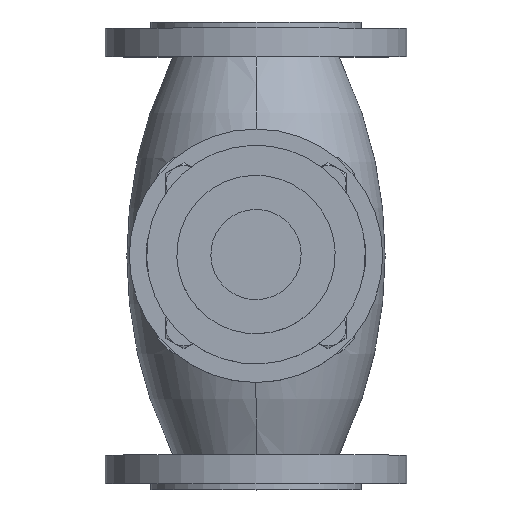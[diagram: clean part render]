
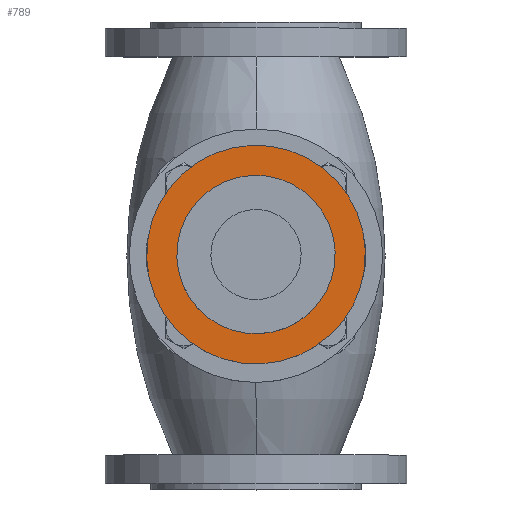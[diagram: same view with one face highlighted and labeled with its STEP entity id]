
A CAD part, top view. The second image highlights one B-rep face of the part: STEP entity #789.
In plain terms, the highlighted planar face has unit normal (0, 0, 1) as drawn and (0, 0, -1) by its records, which use the part's own axes.
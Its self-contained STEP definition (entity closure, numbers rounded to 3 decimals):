
#60 = CARTESIAN_POINT ( 'NONE',  ( -48.507, 3.084, -10.901 ) ) ;
#104 = DIRECTION ( 'NONE',  ( 0., 0., -1. ) ) ;
#501 = CARTESIAN_POINT ( 'NONE',  ( 3.993, 3.084, -10.901 ) ) ;
#583 = ORIENTED_EDGE ( 'NONE', *, *, #11066, .T. ) ;
#690 = VERTEX_POINT ( 'NONE', #9287 ) ;
#789 = ADVANCED_FACE ( 'NONE', ( #11346, #5386 ), #2604, .T. ) ;
#856 = CIRCLE ( 'NONE', #2325, 52.5 ) ;
#944 = CARTESIAN_POINT ( 'NONE',  ( 58.094, 3.084, -10.901 ) ) ;
#1075 = CIRCLE ( 'NONE', #4182, 72.5 ) ;
#1272 = EDGE_LOOP ( 'NONE', ( #1981, #3633 ) ) ;
#1415 = CARTESIAN_POINT ( 'NONE',  ( 3.993, 3.084, -10.901 ) ) ;
#1727 = CARTESIAN_POINT ( 'NONE',  ( 3.993, 3.084, -10.901 ) ) ;
#1851 = AXIS2_PLACEMENT_3D ( 'NONE', #944, #4278, #7957 ) ;
#1981 = ORIENTED_EDGE ( 'NONE', *, *, #9070, .F. ) ;
#2325 = AXIS2_PLACEMENT_3D ( 'NONE', #1415, #8609, #8376 ) ;
#2604 = PLANE ( 'NONE',  #1851 ) ;
#3620 = VERTEX_POINT ( 'NONE', #5360 ) ;
#3633 = ORIENTED_EDGE ( 'NONE', *, *, #7475, .F. ) ;
#3927 = CIRCLE ( 'NONE', #9074, 52.5 ) ;
#4182 = AXIS2_PLACEMENT_3D ( 'NONE', #501, #9176, #10038 ) ;
#4278 = DIRECTION ( 'NONE',  ( 0., 0., -1. ) ) ;
#4408 = DIRECTION ( 'NONE',  ( -1., 0., 0. ) ) ;
#5205 = VERTEX_POINT ( 'NONE', #60 ) ;
#5216 = CIRCLE ( 'NONE', #6120, 72.5 ) ;
#5360 = CARTESIAN_POINT ( 'NONE',  ( -68.507, 3.084, -10.901 ) ) ;
#5386 = FACE_BOUND ( 'NONE', #1272, .T. ) ;
#5986 = ORIENTED_EDGE ( 'NONE', *, *, #6142, .T. ) ;
#6120 = AXIS2_PLACEMENT_3D ( 'NONE', #1727, #7891, #8746 ) ;
#6142 = EDGE_CURVE ( 'NONE', #690, #3620, #5216, .T. ) ;
#6893 = CARTESIAN_POINT ( 'NONE',  ( 3.993, 3.084, -10.901 ) ) ;
#7475 = EDGE_CURVE ( 'NONE', #5205, #8503, #3927, .T. ) ;
#7772 = CARTESIAN_POINT ( 'NONE',  ( 56.493, 3.084, -10.901 ) ) ;
#7799 = EDGE_LOOP ( 'NONE', ( #5986, #583 ) ) ;
#7891 = DIRECTION ( 'NONE',  ( 0., 0., -1. ) ) ;
#7957 = DIRECTION ( 'NONE',  ( -1., 0., 0. ) ) ;
#8376 = DIRECTION ( 'NONE',  ( -1., 0., 0. ) ) ;
#8503 = VERTEX_POINT ( 'NONE', #7772 ) ;
#8609 = DIRECTION ( 'NONE',  ( 0., 0., -1. ) ) ;
#8746 = DIRECTION ( 'NONE',  ( 1., 0., 0. ) ) ;
#9070 = EDGE_CURVE ( 'NONE', #8503, #5205, #856, .T. ) ;
#9074 = AXIS2_PLACEMENT_3D ( 'NONE', #6893, #104, #4408 ) ;
#9176 = DIRECTION ( 'NONE',  ( 0., 0., -1. ) ) ;
#9287 = CARTESIAN_POINT ( 'NONE',  ( 76.493, 3.084, -10.901 ) ) ;
#10038 = DIRECTION ( 'NONE',  ( 1., 0., 0. ) ) ;
#11066 = EDGE_CURVE ( 'NONE', #3620, #690, #1075, .T. ) ;
#11346 = FACE_OUTER_BOUND ( 'NONE', #7799, .T. ) ;
